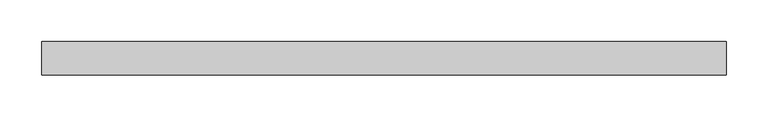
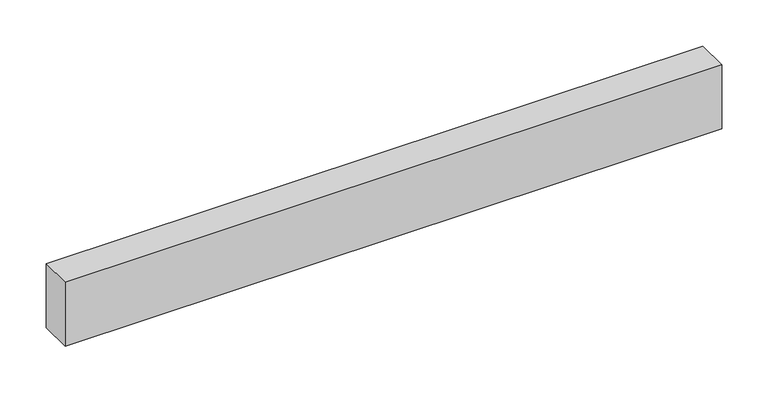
"""IFC4 building model written with IfcOpenShell, lengths in millimetres: plate geometry, Panneau système vide : Epaiss. 4cm."""

from ifc_helpers import new_model, si_unit, origin, origin_with_axes, place, context, project, spatial, polyline, outline, extrude, source, transform, mapped, element, save


def plate_d8017951(model_context):
    return source(origin(), model_context, "Body", "SweptSolid", [
        extrude(outline(polyline([(408.15, -20.0), (-408.15, -20.0), (-408.15, 20.0), (408.15, 20.0), (408.15, -20.0)])), origin_with_axes(), (0.0, 0.0, 1.0), 83.8416167),
    ])


if __name__ == "__main__":
    model = new_model("IFC4")
    model_context = context("Model", 3, world=origin())
    ifc_project = project(units=[si_unit("LENGTHUNIT", "METRE", prefix="MILLI")], contexts=[model_context])
    site = spatial("IfcSite", under=ifc_project)
    building = spatial("IfcBuilding", under=site)
    placement = place(None, origin())
    plate_shape = plate_d8017951(model_context)
    element("IfcPlate", 1, ObjectType="Panneau système vide : Epaiss. 4cm", at=placement, inside=building, context=model_context, shape_type="MappedRepresentation", body=[
        mapped(plate_shape, transform((0.0, 0.0, 0.0), x_axis=(1.0, 0.0, 0.0), y_axis=(0.0, 1.0, 0.0), z_axis=(0.0, 0.0, 1.0))),
    ])
    save(model, "model.ifc")
